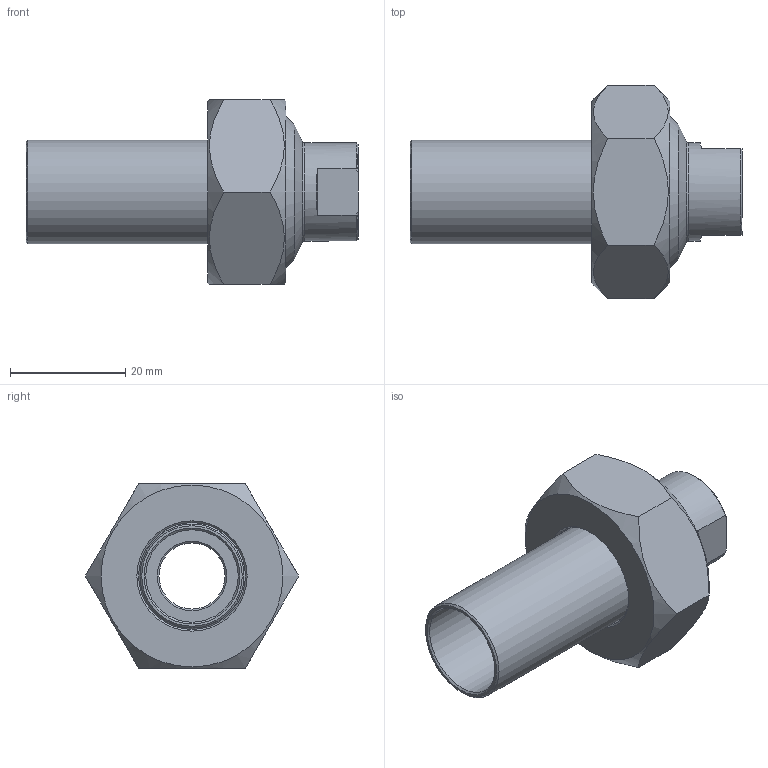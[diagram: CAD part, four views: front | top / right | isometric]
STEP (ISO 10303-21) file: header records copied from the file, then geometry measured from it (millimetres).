
FILE_DESCRIPTION(/* description */ (''),/* implementation_level */ '2;1');
FILE_NAME(/* name */ 'C:\Users\cad\Desktop\Zeichnungen neu von Ralph\Ganze Kupplungen\3D_Kupplung-R666-PE-G\3D_R666-PE-G-18-DN20-DN8_1711309277.stp',/* time_stamp */ '2021-07-15T16:16:23+02:00',/* author */ ('cad'),/* organization */ (''),/* preprocessor_version */ 'ST-DEVELOPER v18.1',/* originating_system */ 'Autodesk Inventor 2022',/* authorisation */ '');
FILE_SCHEMA (('AUTOMOTIVE_DESIGN { 1 0 10303 214 3 1 1 }'));
Length unit declared in the file: millimetre
Products named in the file (4): 3D_R666-PE-G-18-DN20-DN8_1711309277; 3D_R666-M-DN20_17113920; 3D_R666-G-DN8-DN20_17113505; 3D_R666-PE-18-DN20_17113463
Assembly tree (3 placements, depth 2):
  3D_R666-PE-G-18-DN20-DN8_1711309277
    3D_R666-M-DN20_17113920
    3D_R666-G-DN8-DN20_17113505
    3D_R666-PE-18-DN20_17113463
Bounding box: 57.5 x 36.95 x 32 mm (x, y, z)
Volume: 13393.4 mm3; surface area: 10471.9 mm2
Topology: 3 solids, 3 shells, 46 faces, 109 edges, 71 vertices
Faces by surface type: plane 18, cone 17, cylinder 8, torus 3
Full cylindrical faces by diameter (mm): 11.445 x1, 16 x1, 17 x1, 18 x1, 18.5 x1, 23.5 x1, 24.117 x1, 26.4 x1
Entity records: 1488 total; most frequent: CARTESIAN_POINT 265, DIRECTION 255, ORIENTED_EDGE 218, EDGE_CURVE 109, AXIS2_PLACEMENT_3D 109, VERTEX_POINT 71, EDGE_LOOP 54, CIRCLE 54
